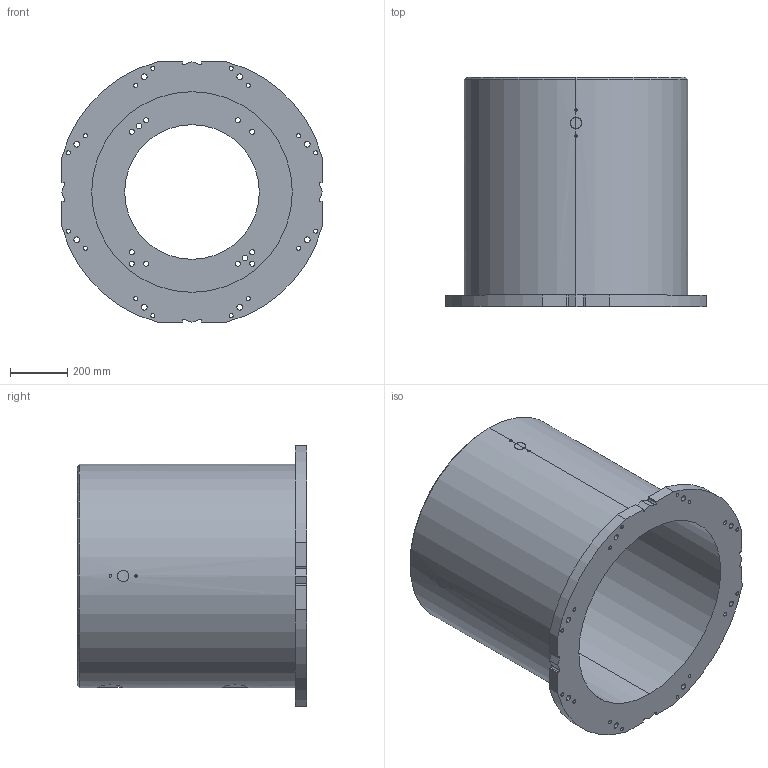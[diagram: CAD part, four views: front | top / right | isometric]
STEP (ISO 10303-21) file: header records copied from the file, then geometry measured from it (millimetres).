
FILE_DESCRIPTION (( 'STEP AP214' ), '1' );
FILE_NAME ('P-800.STEP', '2025-12-10T13:35:24', ( '' ), ( '' ), 'SwSTEP 2.0', 'SolidWorks 2022', '' );
FILE_SCHEMA (( 'AUTOMOTIVE_DESIGN' ));
Length unit declared in the file: millimetre
Products named in the file (1): P-800
Bounding box: 910 x 800 x 910 mm (x, y, z)
Volume: 90004852.4 mm3; surface area: 4783636.6 mm2
Topology: 1 solids, 1 shells, 203 faces, 565 edges, 376 vertices
Faces by surface type: cylinder 149, plane 28, bspline 24, cone 2
Entity records: 12485 total; most frequent: CARTESIAN_POINT 6354, ORIENTED_EDGE 1130, DIRECTION 969, EDGE_CURVE 565, AXIS2_PLACEMENT_3D 378, VERTEX_POINT 376, EDGE_LOOP 289, VECTOR 213
